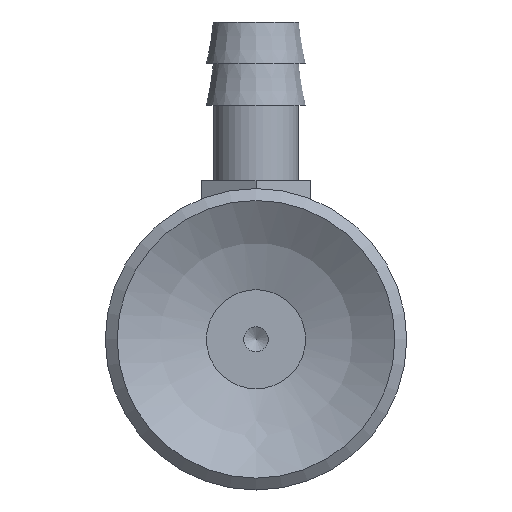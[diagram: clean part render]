
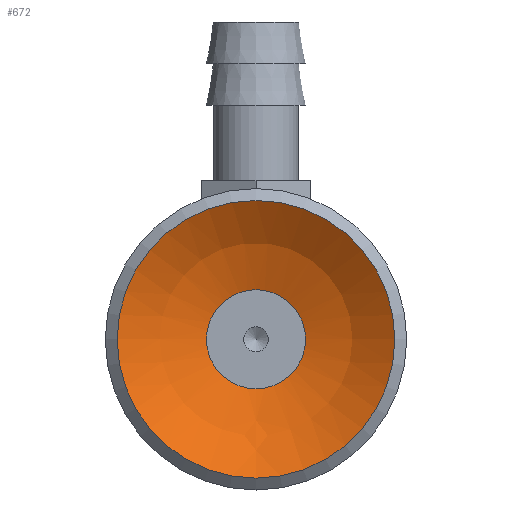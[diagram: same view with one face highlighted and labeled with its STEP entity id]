
A CAD part, front view. The second image highlights one B-rep face of the part: STEP entity #672.
In plain terms, the highlighted spherical face has radius 11.5 mm.
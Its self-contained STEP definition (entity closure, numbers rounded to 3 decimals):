
#672=ADVANCED_FACE('',(#1139,#1140),#1141,.F.);
#1139=FACE_OUTER_BOUND('',#1723,.T.);
#1140=FACE_OUTER_BOUND('',#1724,.T.);
#1141=SPHERICAL_SURFACE('',#1725,11.5);
#1723=EDGE_LOOP('',(#3050));
#1724=EDGE_LOOP('',(#3051));
#1725=AXIS2_PLACEMENT_3D('',#3052,#3053,#3054);
#3050=ORIENTED_EDGE('',*,*,#3974,.T.);
#3051=ORIENTED_EDGE('',*,*,#3945,.F.);
#3052=CARTESIAN_POINT('',(0.001,9.494,-22.735));
#3053=DIRECTION('',(0.0,0.,-1.0));
#3054=DIRECTION('',(1.0,0.0,0.0));
#3945=EDGE_CURVE('',#4671,#4671,#4672,.T.);
#3974=EDGE_CURVE('',#4724,#4724,#4725,.T.);
#4671=VERTEX_POINT('',#6564);
#4672=CIRCLE('',#6565,2.5);
#4724=VERTEX_POINT('',#6617);
#4725=CIRCLE('',#6618,7.0);
#6564=CARTESIAN_POINT('',(0.001,11.994,-11.51));
#6565=AXIS2_PLACEMENT_3D('',#7288,#7289,#7290);
#6617=CARTESIAN_POINT('',(0.001,16.494,-13.611));
#6618=AXIS2_PLACEMENT_3D('',#7375,#7376,#7377);
#7288=CARTESIAN_POINT('',(0.001,9.494,-11.51));
#7289=DIRECTION('',(0.0,0.,-1.0));
#7290=DIRECTION('',(0.0,1.0,0.));
#7375=CARTESIAN_POINT('',(0.001,9.494,-13.611));
#7376=DIRECTION('',(0.0,0.,-1.0));
#7377=DIRECTION('',(0.0,1.0,0.));
